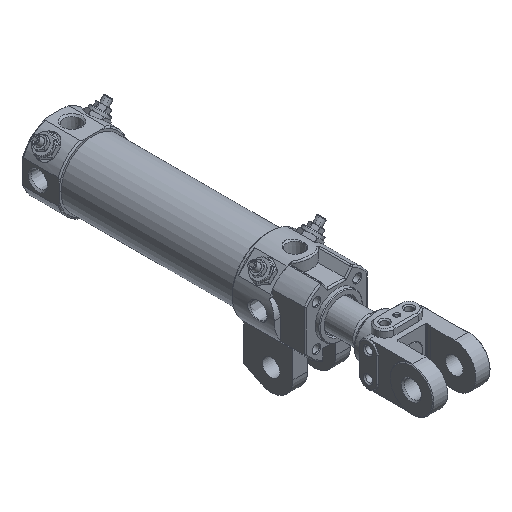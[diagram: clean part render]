
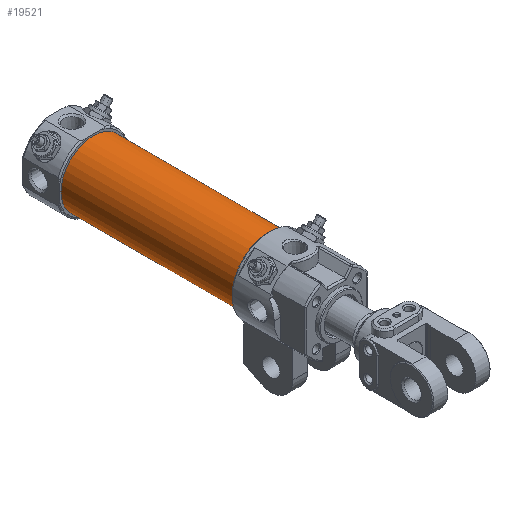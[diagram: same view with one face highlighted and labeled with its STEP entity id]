
A CAD part, isometric view. The second image highlights one B-rep face of the part: STEP entity #19521.
In plain terms, the highlighted cylindrical face has radius 22.5 mm (diameter 45 mm), a full revolution.
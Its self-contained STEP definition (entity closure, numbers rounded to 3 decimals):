
#14200=CARTESIAN_POINT('',(22.5,171.5,0.));
#14201=VERTEX_POINT('',#14200);
#14202=CARTESIAN_POINT('',(0.0,171.5,0.0));
#14203=DIRECTION('',(0.0,-1.0,0.0));
#14204=DIRECTION('',(-1.0,0.0,0.0));
#14205=AXIS2_PLACEMENT_3D('',#14202,#14203,#14204);
#14206=CIRCLE('',#14205,22.5);
#14207=EDGE_CURVE('',#14201,#14201,#14206,.T.);
#19498=CARTESIAN_POINT('',(22.5,50.5,0.));
#19499=VERTEX_POINT('',#19498);
#19500=CARTESIAN_POINT('',(0.0,50.5,0.0));
#19501=DIRECTION('',(0.0,-1.0,0.0));
#19502=DIRECTION('',(-1.0,0.0,0.0));
#19503=AXIS2_PLACEMENT_3D('',#19500,#19501,#19502);
#19504=CIRCLE('',#19503,22.5);
#19505=EDGE_CURVE('',#19499,#19499,#19504,.T.);
#19510=CARTESIAN_POINT('',(0.0,50.5,0.0));
#19511=DIRECTION('',(0.0,1.0,0.0));
#19512=DIRECTION('',(-1.0,0.0,0.0));
#19513=AXIS2_PLACEMENT_3D('',#19510,#19511,#19512);
#19514=CYLINDRICAL_SURFACE('',#19513,22.5);
#19515=ORIENTED_EDGE('',*,*,#14207,.T.);
#19516=EDGE_LOOP('',(#19515));
#19517=FACE_OUTER_BOUND('',#19516,.T.);
#19518=ORIENTED_EDGE('',*,*,#19505,.F.);
#19519=EDGE_LOOP('',(#19518));
#19520=FACE_BOUND('',#19519,.T.);
#19521=ADVANCED_FACE('',(#19517,#19520),#19514,.T.);
